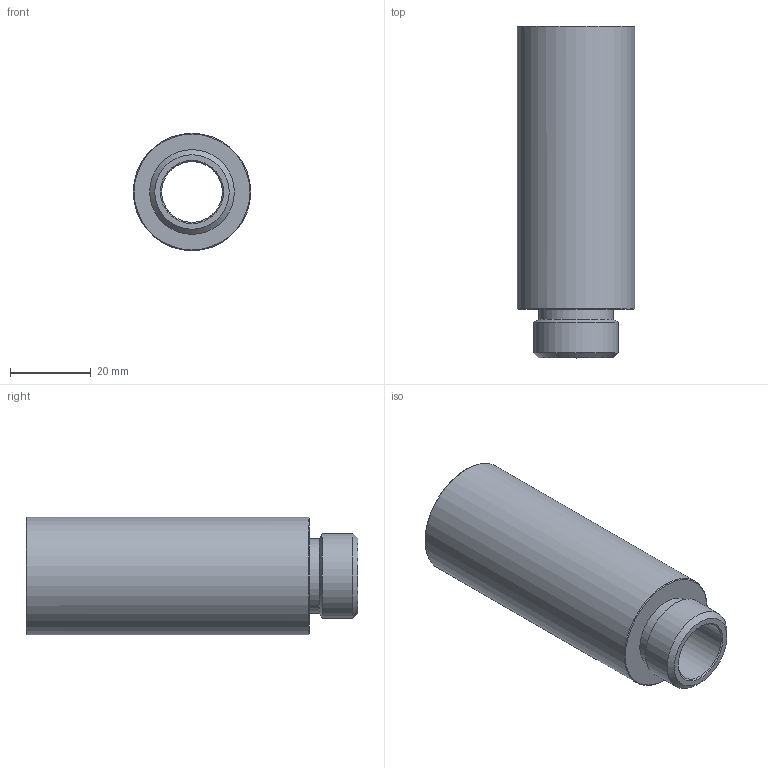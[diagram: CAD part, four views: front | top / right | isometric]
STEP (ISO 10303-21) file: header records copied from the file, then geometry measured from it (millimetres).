
FILE_DESCRIPTION(/* description */ ('SILEZIATORE G1/2" RIDOTTO'),/* implementation_level */ '2;1');
FILE_NAME(/* name */ 'C:\PNX_VAULTFOLDER\Area Tecnica\Disegni\VARIE-3D\Componenti\1900 (vuoto)\19S12_R.stp',/* time_stamp */ '2019-09-13T14:46:58+02:00',/* author */ ('maniean1'),/* organization */ ('Pneumax S.p.A.'),/* preprocessor_version */ 'ST-DEVELOPER v17',/* originating_system */ 'Autodesk Inventor 2019',/* authorisation */ '');
FILE_SCHEMA (('AUTOMOTIVE_DESIGN { 1 0 10303 214 3 1 1 }'));
Length unit declared in the file: millimetre
Products named in the file (1): 19S12.R
Bounding box: 29 x 82 x 29 mm (x, y, z)
Volume: 35593.5 mm3; surface area: 12004.9 mm2
Topology: 1 solids, 1 shells, 13 faces, 31 edges, 21 vertices
Faces by surface type: cone 6, cylinder 4, plane 3
Full cylindrical faces by diameter (mm): 15 x1, 18.5 x1, 20.9 x1, 29 x1
Entity records: 457 total; most frequent: DIRECTION 80, CARTESIAN_POINT 66, ORIENTED_EDGE 62, AXIS2_PLACEMENT_3D 35, EDGE_CURVE 31, CIRCLE 21, VERTEX_POINT 21, EDGE_LOOP 16
